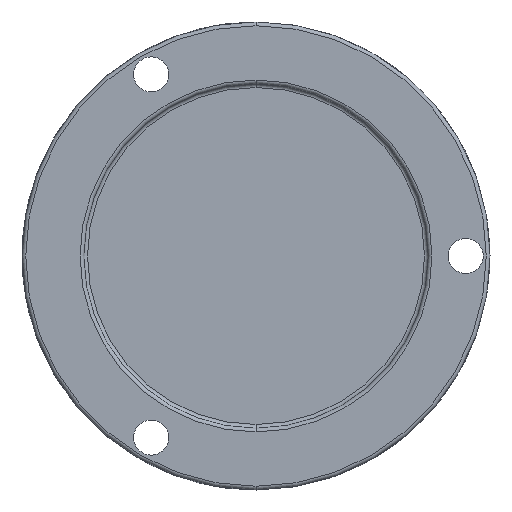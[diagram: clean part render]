
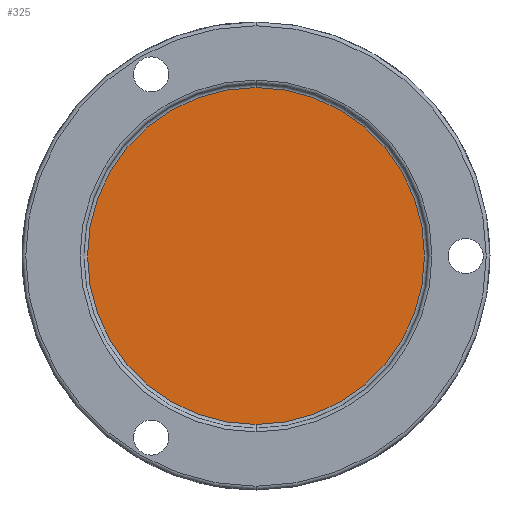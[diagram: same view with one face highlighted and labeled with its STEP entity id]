
A CAD part, front view. The second image highlights one B-rep face of the part: STEP entity #325.
In plain terms, the highlighted planar face has unit normal (0, -1, 0).
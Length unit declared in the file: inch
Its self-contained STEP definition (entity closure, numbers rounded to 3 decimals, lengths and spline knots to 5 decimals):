
#316 = ORIENTED_EDGE ( 'NONE', *, *, #1156, .T. ) ;
#324 = CARTESIAN_POINT ( 'NONE',  ( 0., 0.03, 0. ) ) ;
#325 = ADVANCED_FACE ( 'NONE', ( #463 ), #547, .T. ) ;
#357 = CARTESIAN_POINT ( 'NONE',  ( 0., 0.03, 0.45 ) ) ;
#417 = CARTESIAN_POINT ( 'NONE',  ( 0., 0.03, 0. ) ) ;
#463 = FACE_OUTER_BOUND ( 'NONE', #1115, .T. ) ;
#481 = ORIENTED_EDGE ( 'NONE', *, *, #833, .T. ) ;
#528 = DIRECTION ( 'NONE',  ( 0., 0., -1. ) ) ;
#547 = PLANE ( 'NONE',  #779 ) ;
#684 = CARTESIAN_POINT ( 'NONE',  ( 0., 0.03, -0.45 ) ) ;
#779 = AXIS2_PLACEMENT_3D ( 'NONE', #417, #1291, #1309 ) ;
#833 = EDGE_CURVE ( 'NONE', #1046, #1315, #954, .T. ) ;
#859 = DIRECTION ( 'NONE',  ( 0., 0., -1. ) ) ;
#954 = CIRCLE ( 'NONE', #1050, 0.45 ) ;
#982 = DIRECTION ( 'NONE',  ( 0., -1., 0. ) ) ;
#1020 = AXIS2_PLACEMENT_3D ( 'NONE', #324, #1183, #528 ) ;
#1046 = VERTEX_POINT ( 'NONE', #357 ) ;
#1050 = AXIS2_PLACEMENT_3D ( 'NONE', #1204, #982, #859 ) ;
#1115 = EDGE_LOOP ( 'NONE', ( #316, #481 ) ) ;
#1156 = EDGE_CURVE ( 'NONE', #1315, #1046, #1320, .T. ) ;
#1183 = DIRECTION ( 'NONE',  ( 0., -1., 0. ) ) ;
#1204 = CARTESIAN_POINT ( 'NONE',  ( 0., 0.03, 0. ) ) ;
#1291 = DIRECTION ( 'NONE',  ( 0., -1., 0. ) ) ;
#1309 = DIRECTION ( 'NONE',  ( 0., 0., -1. ) ) ;
#1315 = VERTEX_POINT ( 'NONE', #684 ) ;
#1320 = CIRCLE ( 'NONE', #1020, 0.45 ) ;
